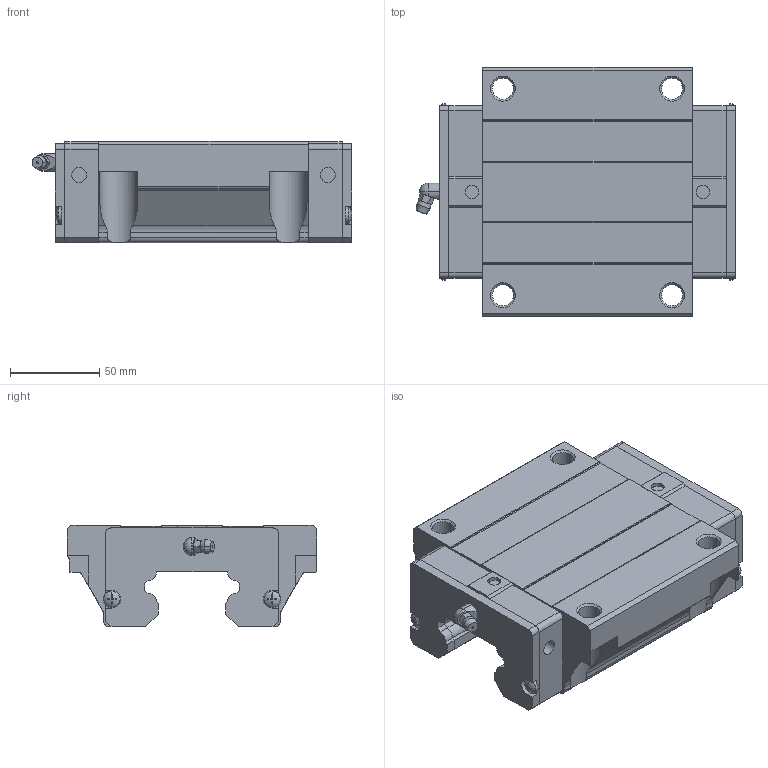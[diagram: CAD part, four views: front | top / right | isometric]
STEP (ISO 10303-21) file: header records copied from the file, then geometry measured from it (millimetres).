
FILE_DESCRIPTION(('starvars output'),'2;1');
FILE_NAME('cv20190610061324000017007.stp','06:13:25 2019/06/10',( 'Thomas Industrial Network Germany GmbH'),( 'Thomas Industrial Network Germany GmbH'),'unknown preprocess','ACIS' ,'unknown authorization');
FILE_SCHEMA(('CONFIG_CONTROL_DESIGN {UNKNOWN IMPLEMENTATION LEVEL}'));
Length unit declared in the file: millimetre
Products named in the file (10): PRODUCT_ID_1; PRODUCT_ID_2; PRODUCT_ID_3; PRODUCT_ID_4; PRODUCT_ID_5; PRODUCT_ID_6; PRODUCT_ID_7; PRODUCT_ID_8; PRODUCT_ID_9; PRODUCT_ID_10
Bounding box: 179.6 x 140 x 57 mm (x, y, z)
Volume: 819907 mm3; surface area: 121227.3 mm2
Topology: 10 solids, 10 shells, 433 faces, 1144 edges, 737 vertices
Faces by surface type: plane 270, cylinder 89, cone 62, sphere 12
Entity records: 12975 total; most frequent: CARTESIAN_POINT 2289, ORIENTED_EDGE 2280, DIRECTION 1772, EDGE_CURVE 1140, VERTEX_POINT 737, VECTOR 708, LINE 708, AXIS2_PLACEMENT_3D 532
